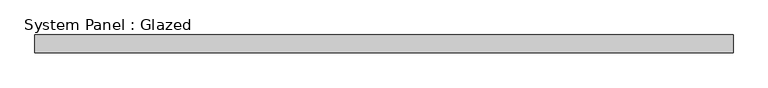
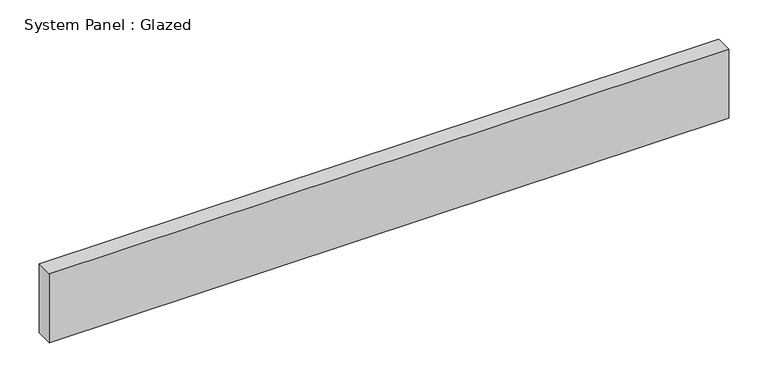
"""IFC4 building model written with IfcOpenShell, lengths in millimetres: plate geometry, System Panel : Glazed."""

from ifc_helpers import new_model, si_unit, origin, origin_with_axes, place, context, project, spatial, polyline, outline, extrude, source, transform, mapped, element, save


def system_panel_glazed_52538ea0(model_context):
    return source(origin(), model_context, "Body", "SweptSolid", [
        extrude(outline(polyline([(501.1964286, 19.05), (-501.1964286, 19.05), (-501.1964286, 44.45), (501.1964286, 44.45), (501.1964286, 19.05)])), origin_with_axes(), (0.0, 0.0, 1.0), 107.8104781),
    ])


if __name__ == "__main__":
    model = new_model("IFC4")
    model_context = context("Model", 3, world=origin())
    ifc_project = project(units=[si_unit("LENGTHUNIT", "METRE", prefix="MILLI")], contexts=[model_context])
    site = spatial("IfcSite", under=ifc_project)
    building = spatial("IfcBuilding", under=site)
    placement = place(None, origin())
    system_panel_glazed_shape = system_panel_glazed_52538ea0(model_context)
    element("IfcPlate", 1, ObjectType="System Panel : Glazed", at=placement, inside=building, context=model_context, shape_type="MappedRepresentation", body=[
        mapped(system_panel_glazed_shape, transform((0.0, 0.0, 0.0), x_axis=(1.0, 0.0, 0.0), y_axis=(0.0, 1.0, 0.0), z_axis=(0.0, 0.0, 1.0))),
    ])
    save(model, "model.ifc")
